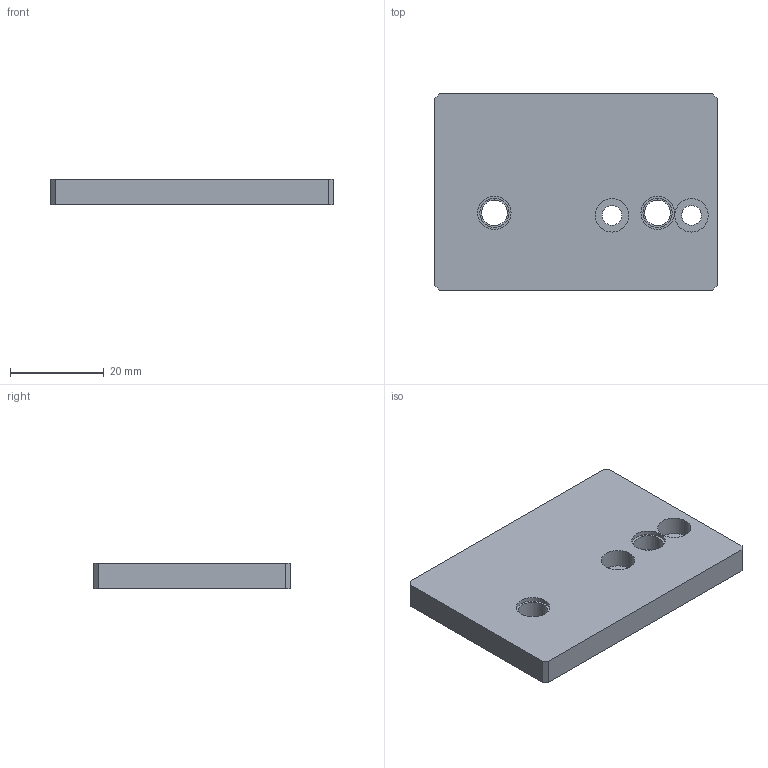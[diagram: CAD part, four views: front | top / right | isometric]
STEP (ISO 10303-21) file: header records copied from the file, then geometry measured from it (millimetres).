
FILE_DESCRIPTION(/* description */ ('','CAx-IF Rec.Pracs.---Representation and Presentation of Product Manufacturing Information (PMI)---4.0---2014-10-13'),/* implementation_level */ '2;1');
FILE_NAME(/* name */ 'Chain-Adapter-M4.step',/* time_stamp */ '2025-03-19T09:44:23-05:00',/* author */ (''),/* organization */ (''),/* preprocessor_version */ 'ST-DEVELOPER v20',/* originating_system */ 'Autodesk Translation Framework v13.20.0.188',/* authorisation */ '');
FILE_SCHEMA (('AP242_MANAGED_MODEL_BASED_3D_ENGINEERING_MIM_LF { 1 0 10303 442 1 1 4 }'));
Length unit declared in the file: millimetre
Products named in the file (1): Chain-Adapter-M4
Bounding box: 60.4 x 42 x 5.54 mm (x, y, z)
Volume: 13337.5 mm3; surface area: 6477.4 mm2
Topology: 1 solids, 1 shells, 26 faces, 54 edges, 36 vertices
Faces by surface type: plane 16, cylinder 10
Full cylindrical faces by diameter (mm): 4.25 x2, 5.5 x2, 6.25 x2, 7.125 x2, 7.15 x2
Entity records: 754 total; most frequent: DIRECTION 128, CARTESIAN_POINT 117, ORIENTED_EDGE 108, EDGE_CURVE 54, AXIS2_PLACEMENT_3D 47, EDGE_LOOP 40, VERTEX_POINT 36, LINE 34
